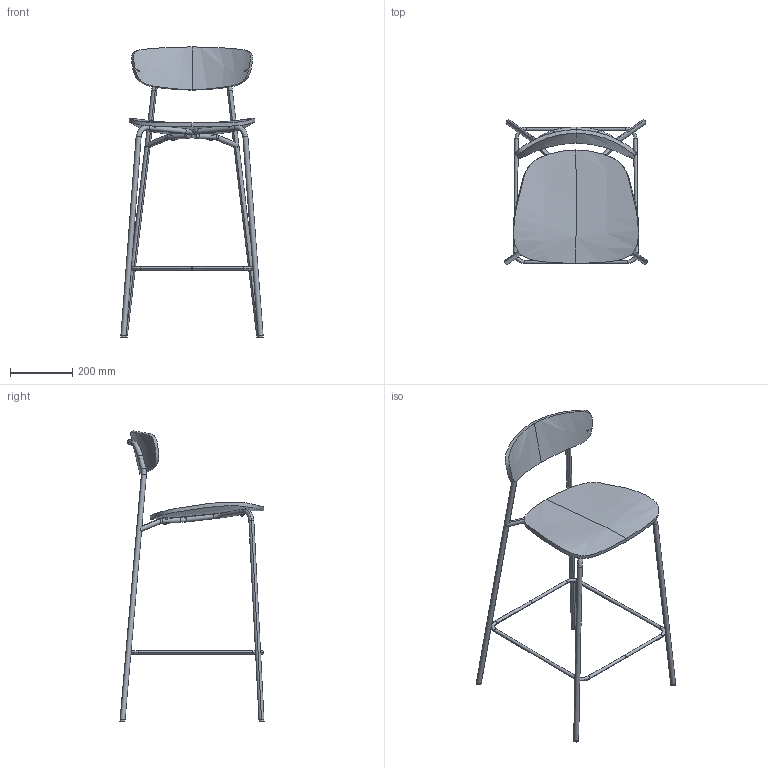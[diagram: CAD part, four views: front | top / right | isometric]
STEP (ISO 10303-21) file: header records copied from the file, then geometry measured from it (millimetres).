
FILE_DESCRIPTION(/* description */ (''),/* implementation_level */ '2;1');
FILE_NAME(/* name */ 'Trivi 128W,H680',/* time_stamp */ '2022-01-20T11:25:13+01:00',/* author */ (''),/* organization */ (''),/* preprocessor_version */ 'ST-DEVELOPER v16.5',/* originating_system */ 'Rhino 7.14',/* authorisation */ '');
FILE_SCHEMA (('CONFIG_CONTROL_DESIGN'));
Length unit declared in the file: millimetre
Products named in the file (1): Document
Bounding box: 456.79 x 462.24 x 930.57 mm (x, y, z)
Volume: 1953949.1 mm3; surface area: 645458.2 mm2
Topology: 12 solids, 22 shells, 190 faces, 409 edges, 250 vertices
Faces by surface type: bspline 64, cylinder 64, plane 62
Entity records: 8176 total; most frequent: CARTESIAN_POINT 5464, ORIENTED_EDGE 776, EDGE_CURVE 406, VERTEX_POINT 244, EDGE_LOOP 192, ADVANCED_FACE 190, FACE_OUTER_BOUND 190, B_SPLINE_CURVE_WITH_KNOTS 181
